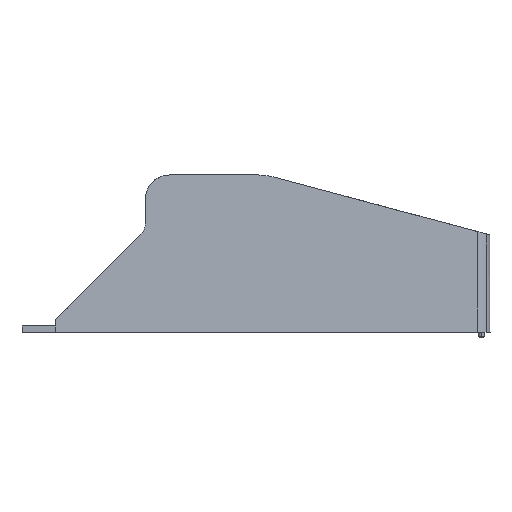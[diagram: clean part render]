
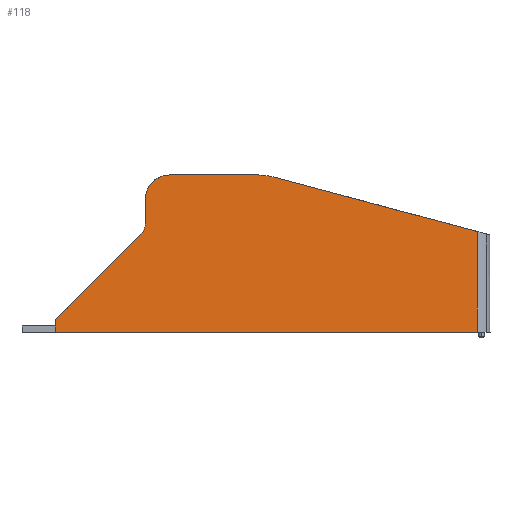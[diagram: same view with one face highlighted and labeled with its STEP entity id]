
A CAD part, left-side view. The second image highlights one B-rep face of the part: STEP entity #118.
In plain terms, the highlighted planar face has unit normal (-0.991, -0.134, 0).
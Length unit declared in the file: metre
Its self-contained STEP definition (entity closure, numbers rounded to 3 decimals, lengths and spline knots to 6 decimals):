
#118=ADVANCED_FACE('0:56',(#408),#409,.T.);
#408=FACE_OUTER_BOUND('',#874,.T.);
#409=PLANE('',#875);
#874=EDGE_LOOP('',(#2047,#2048,#2049,#2050,#2051,#2052,#2053,#2054,#2055,#2056,#2057,#2058,#2059,#2060,#2061));
#875=AXIS2_PLACEMENT_3D('',#2062,#2063,#2064);
#2047=ORIENTED_EDGE('',*,*,#3664,.F.);
#2048=ORIENTED_EDGE('',*,*,#3666,.F.);
#2049=ORIENTED_EDGE('',*,*,#3667,.F.);
#2050=ORIENTED_EDGE('',*,*,#3587,.F.);
#2051=ORIENTED_EDGE('',*,*,#3668,.F.);
#2052=ORIENTED_EDGE('',*,*,#3581,.F.);
#2053=ORIENTED_EDGE('',*,*,#3669,.F.);
#2054=ORIENTED_EDGE('',*,*,#3670,.F.);
#2055=ORIENTED_EDGE('',*,*,#3671,.F.);
#2056=ORIENTED_EDGE('',*,*,#3579,.F.);
#2057=ORIENTED_EDGE('',*,*,#3672,.T.);
#2058=ORIENTED_EDGE('',*,*,#3589,.F.);
#2059=ORIENTED_EDGE('',*,*,#3673,.F.);
#2060=ORIENTED_EDGE('',*,*,#3674,.F.);
#2061=ORIENTED_EDGE('',*,*,#3675,.F.);
#2062=CARTESIAN_POINT('',(0.018786,-0.078149,-0.015165));
#2063=DIRECTION('',(-0.991,-0.134,0.));
#2064=DIRECTION('',(0.134,-0.991,0.));
#3579=EDGE_CURVE('0:689',#4365,#4361,#4367,.T.);
#3581=EDGE_CURVE('0:683',#4368,#4371,#4372,.T.);
#3587=EDGE_CURVE('0:677',#4381,#4377,#4383,.T.);
#3589=EDGE_CURVE('0:695',#4384,#4386,#4387,.F.);
#3664=EDGE_CURVE('0:668',#4515,#4517,#4518,.T.);
#3666=EDGE_CURVE('0:674',#4520,#4515,#4521,.T.);
#3667=EDGE_CURVE('0:677',#4377,#4520,#4522,.T.);
#3668=EDGE_CURVE('0:680',#4371,#4381,#4523,.T.);
#3669=EDGE_CURVE('0:683',#4524,#4368,#4525,.T.);
#3670=EDGE_CURVE('0:686',#4526,#4524,#4527,.T.);
#3671=EDGE_CURVE('0:689',#4361,#4526,#4528,.T.);
#3672=EDGE_CURVE('0:692',#4365,#4386,#4529,.F.);
#3673=EDGE_CURVE('0:695',#4530,#4384,#4531,.F.);
#3674=EDGE_CURVE('0:698',#4532,#4530,#4533,.F.);
#3675=EDGE_CURVE('0:701',#4517,#4532,#4534,.T.);
#4361=VERTEX_POINT('',#5453);
#4365=VERTEX_POINT('',#5458);
#4367=ELLIPSE('',#5461,0.003027,0.003);
#4368=VERTEX_POINT('',#5462);
#4371=VERTEX_POINT('',#5466);
#4372=ELLIPSE('',#5467,0.005045,0.005);
#4377=VERTEX_POINT('',#5473);
#4381=VERTEX_POINT('',#5478);
#4383=ELLIPSE('',#5481,0.015136,0.015);
#4384=VERTEX_POINT('',#5482);
#4386=VERTEX_POINT('',#5485);
#4387=ELLIPSE('',#5486,0.000505,0.0005);
#4515=VERTEX_POINT('',#5660);
#4517=VERTEX_POINT('',#5662);
#4518=LINE('',#5663,#5664);
#4520=VERTEX_POINT('',#5666);
#4521=LINE('',#5667,#5668);
#4522=ELLIPSE('',#5669,0.015136,0.015);
#4523=LINE('',#5670,#5671);
#4524=VERTEX_POINT('',#5672);
#4525=ELLIPSE('',#5673,0.005045,0.005);
#4526=VERTEX_POINT('',#5674);
#4527=LINE('',#5675,#5676);
#4528=ELLIPSE('',#5677,0.003027,0.003);
#4529=LINE('',#5678,#5679);
#4530=VERTEX_POINT('',#5680);
#4531=ELLIPSE('',#5681,0.000505,0.0005);
#4532=VERTEX_POINT('',#5682);
#4533=LINE('',#5683,#5684);
#4534=LINE('',#5685,#5686);
#5453=CARTESIAN_POINT('',(0.015258,-0.051984,-0.011745));
#5458=CARTESIAN_POINT('',(0.01517,-0.051334,-0.012718));
#5461=AXIS2_PLACEMENT_3D('',#6760,#6761,#6762);
#5462=CARTESIAN_POINT('',(0.015486,-0.053677,-0.00213));
#5466=CARTESIAN_POINT('',(0.015963,-0.057213,-0.000665));
#5467=AXIS2_PLACEMENT_3D('',#6764,#6765,#6766);
#5473=CARTESIAN_POINT('',(0.018604,-0.076801,-0.000794));
#5478=CARTESIAN_POINT('',(0.01834,-0.074843,-0.000665));
#5481=AXIS2_PLACEMENT_3D('',#6776,#6777,#6778);
#5482=CARTESIAN_POINT('',(0.012822,-0.033925,-0.030181));
#5485=CARTESIAN_POINT('',(0.012837,-0.034033,-0.030019));
#5486=AXIS2_PLACEMENT_3D('',#6780,#6781,#6782);
#5660=CARTESIAN_POINT('',(0.024405,-0.119813,-0.012186));
#5662=CARTESIAN_POINT('',(0.024405,-0.119813,-0.032665));
#5663=CARTESIAN_POINT('',(0.024405,-0.119813,-0.019603));
#5664=VECTOR('',#6913,1.0);
#5666=CARTESIAN_POINT('',(0.018864,-0.078725,-0.001176));
#5667=CARTESIAN_POINT('',(0.021242,-0.096356,-0.005901));
#5668=VECTOR('',#6917,1.);
#5669=AXIS2_PLACEMENT_3D('',#6918,#6919,#6920);
#5670=CARTESIAN_POINT('',(0.018257,-0.074225,-0.000665));
#5671=VECTOR('',#6921,1.0);
#5672=CARTESIAN_POINT('',(0.015288,-0.052213,-0.005665));
#5673=AXIS2_PLACEMENT_3D('',#6922,#6923,#6924);
#5674=CARTESIAN_POINT('',(0.015288,-0.052213,-0.010597));
#5675=CARTESIAN_POINT('',(0.015288,-0.052213,-0.007353));
#5676=VECTOR('',#6925,1.0);
#5677=AXIS2_PLACEMENT_3D('',#6926,#6927,#6928);
#5678=CARTESIAN_POINT('',(0.015621,-0.054683,-0.00937));
#5679=VECTOR('',#6929,1.);
#5680=CARTESIAN_POINT('',(0.012817,-0.033887,-0.030372));
#5681=AXIS2_PLACEMENT_3D('',#6930,#6931,#6932);
#5682=CARTESIAN_POINT('',(0.012817,-0.033887,-0.032665));
#5683=CARTESIAN_POINT('',(0.012817,-0.033887,-0.023915));
#5684=VECTOR('',#6933,1.0);
#5685=CARTESIAN_POINT('',(0.020498,-0.090841,-0.032665));
#5686=VECTOR('',#6934,1.0);
#6760=CARTESIAN_POINT('',(0.014884,-0.049213,-0.010597));
#6761=DIRECTION('',(-0.991,-0.134,0.));
#6762=DIRECTION('',(0.134,-0.991,0.));
#6764=CARTESIAN_POINT('',(0.015963,-0.057213,-0.005665));
#6765=DIRECTION('',(0.991,0.134,0.));
#6766=DIRECTION('',(-0.134,0.991,0.));
#6776=CARTESIAN_POINT('',(0.01834,-0.074843,-0.015665));
#6777=DIRECTION('',(0.991,0.134,0.));
#6778=DIRECTION('',(0.134,-0.991,0.));
#6780=CARTESIAN_POINT('',(0.012884,-0.034387,-0.030372));
#6781=DIRECTION('',(-0.991,-0.134,0.));
#6782=DIRECTION('',(-0.134,0.991,0.));
#6913=DIRECTION('',(0.,0.,-1.));
#6917=DIRECTION('',(0.129,-0.958,-0.257));
#6918=CARTESIAN_POINT('',(0.01834,-0.074843,-0.015665));
#6919=DIRECTION('',(0.991,0.134,0.));
#6920=DIRECTION('',(0.134,-0.991,0.));
#6921=DIRECTION('',(0.134,-0.991,0.));
#6922=CARTESIAN_POINT('',(0.015963,-0.057213,-0.005665));
#6923=DIRECTION('',(0.991,0.134,0.));
#6924=DIRECTION('',(-0.134,0.991,0.));
#6925=DIRECTION('',(0.,0.,1.));
#6926=CARTESIAN_POINT('',(0.014884,-0.049213,-0.010597));
#6927=DIRECTION('',(-0.991,-0.134,0.));
#6928=DIRECTION('',(0.134,-0.991,0.));
#6929=DIRECTION('',(0.095,-0.704,0.704));
#6930=CARTESIAN_POINT('',(0.012884,-0.034387,-0.030372));
#6931=DIRECTION('',(-0.991,-0.134,0.));
#6932=DIRECTION('',(-0.134,0.991,0.));
#6933=DIRECTION('',(0.,0.,-1.));
#6934=DIRECTION('',(-0.134,0.991,0.));
